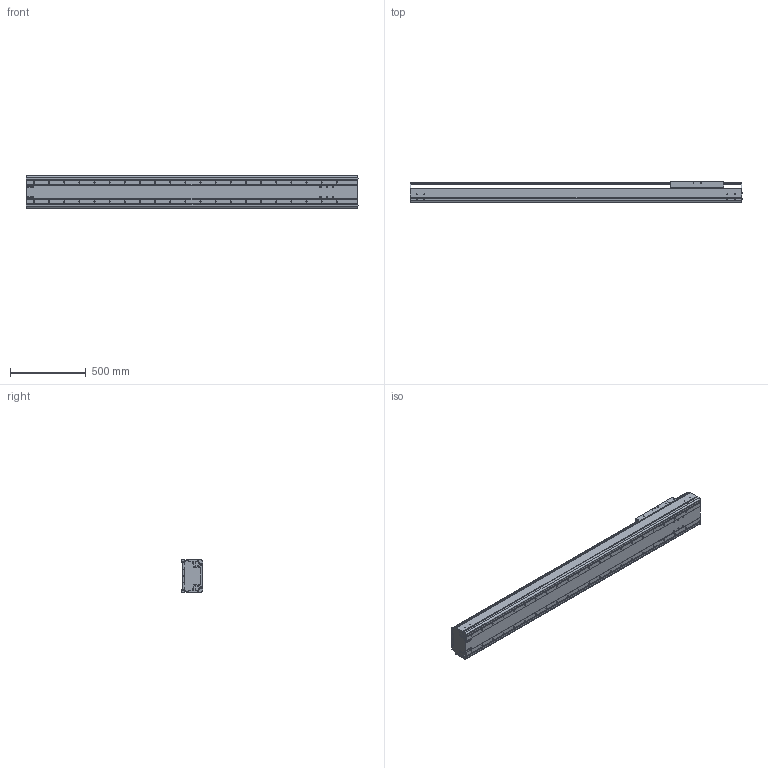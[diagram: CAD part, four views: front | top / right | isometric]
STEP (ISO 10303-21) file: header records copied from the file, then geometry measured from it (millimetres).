
FILE_DESCRIPTION((''),'2;1');
FILE_NAME('BE60J-ST-L_N-G5_IGS_PRT','2017-06-18T',(' '),(''),'PRO/ENGINEER BY PARAMETRIC TECHNOLOGY CORPORATION, 2015030','PRO/ENGINEER BY PARAMETRIC TECHNOLOGY CORPORATION, 2015030','');
FILE_SCHEMA(('CONFIG_CONTROL_DESIGN'));
Length unit declared in the file: millimetre
Products named in the file (1): BE60J-ST-L_N-G5_IGS_PRT
Bounding box: 2192.4 x 140 x 214 mm (x, y, z)
Volume: 16844618.5 mm3; surface area: 4577546.4 mm2
Topology: 2 solids, 142 shells, 1633 faces, 4636 edges, 3110 vertices
Faces by surface type: cylinder 884, plane 641, cone 60, sphere 24, torus 24
Entity records: 55705 total; most frequent: CARTESIAN_POINT 12804, DIRECTION 8896, ORIENTED_EDGE 8608, EDGE_CURVE 4580, AXIS2_PLACEMENT_3D 3350, VERTEX_POINT 3110, VECTOR 2196, LINE 2196
